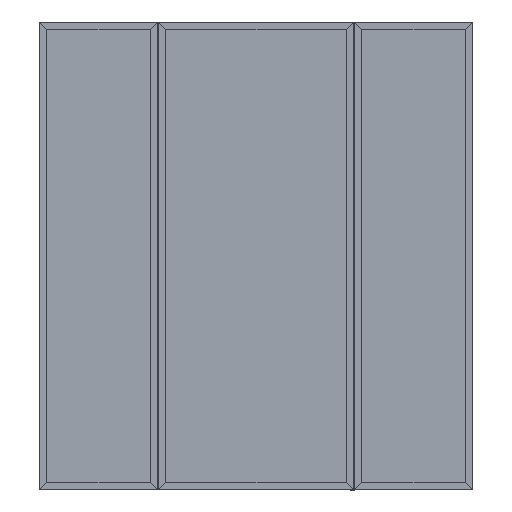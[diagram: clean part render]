
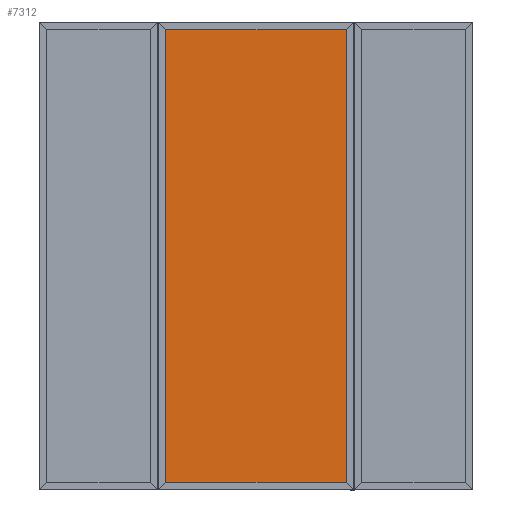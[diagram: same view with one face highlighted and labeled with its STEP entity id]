
A CAD part, top view. The second image highlights one B-rep face of the part: STEP entity #7312.
In plain terms, the highlighted planar face has unit normal (0, 0, 1).
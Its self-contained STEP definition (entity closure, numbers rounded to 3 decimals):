
#1139 = LINE ( 'NONE', #37213, #14874 ) ;
#1597 = DIRECTION ( 'NONE',  ( 0., 1., 0. ) ) ;
#3552 = EDGE_CURVE ( 'NONE', #18930, #36298, #36344, .T. ) ;
#7183 = ORIENTED_EDGE ( 'NONE', *, *, #3552, .T. ) ;
#7312 = ADVANCED_FACE ( 'NONE', ( #45246 ), #26921, .F. ) ;
#7360 = VECTOR ( 'NONE', #25122, 1000. ) ;
#8920 = CARTESIAN_POINT ( 'NONE',  ( -465.07, -1162.2, -13.25 ) ) ;
#10069 = ORIENTED_EDGE ( 'NONE', *, *, #29783, .F. ) ;
#12865 = ORIENTED_EDGE ( 'NONE', *, *, #38658, .T. ) ;
#13585 = CARTESIAN_POINT ( 'NONE',  ( 0., 0., -13.25 ) ) ;
#14432 = VERTEX_POINT ( 'NONE', #23241 ) ;
#14874 = VECTOR ( 'NONE', #1597, 1000. ) ;
#16277 = CARTESIAN_POINT ( 'NONE',  ( 465.07, -1162.2, -13.25 ) ) ;
#16427 = EDGE_CURVE ( 'NONE', #33248, #14432, #1139, .T. ) ;
#17570 = CARTESIAN_POINT ( 'NONE',  ( 465.07, 1162.2, -13.25 ) ) ;
#18482 = LINE ( 'NONE', #22221, #39928 ) ;
#18930 = VERTEX_POINT ( 'NONE', #16277 ) ;
#22221 = CARTESIAN_POINT ( 'NONE',  ( 0., -1162.2, -13.25 ) ) ;
#23241 = CARTESIAN_POINT ( 'NONE',  ( -465.07, 1162.2, -13.25 ) ) ;
#24350 = DIRECTION ( 'NONE',  ( 0., 0., -1. ) ) ;
#25122 = DIRECTION ( 'NONE',  ( -1., 0., 0. ) ) ;
#26921 = PLANE ( 'NONE',  #27749 ) ;
#27749 = AXIS2_PLACEMENT_3D ( 'NONE', #13585, #24350, #45004 ) ;
#29248 = DIRECTION ( 'NONE',  ( -1., 0., 0. ) ) ;
#29783 = EDGE_CURVE ( 'NONE', #18930, #33248, #18482, .T. ) ;
#30725 = ORIENTED_EDGE ( 'NONE', *, *, #16427, .F. ) ;
#32598 = DIRECTION ( 'NONE',  ( 0., 1., 0. ) ) ;
#33248 = VERTEX_POINT ( 'NONE', #8920 ) ;
#36298 = VERTEX_POINT ( 'NONE', #17570 ) ;
#36344 = LINE ( 'NONE', #39202, #36520 ) ;
#36520 = VECTOR ( 'NONE', #32598, 1000. ) ;
#37213 = CARTESIAN_POINT ( 'NONE',  ( -465.07, 0., -13.25 ) ) ;
#38658 = EDGE_CURVE ( 'NONE', #36298, #14432, #43426, .T. ) ;
#38922 = EDGE_LOOP ( 'NONE', ( #30725, #10069, #7183, #12865 ) ) ;
#39202 = CARTESIAN_POINT ( 'NONE',  ( 465.07, 0., -13.25 ) ) ;
#39928 = VECTOR ( 'NONE', #29248, 1000. ) ;
#43199 = CARTESIAN_POINT ( 'NONE',  ( 0., 1162.2, -13.25 ) ) ;
#43426 = LINE ( 'NONE', #43199, #7360 ) ;
#45004 = DIRECTION ( 'NONE',  ( -1., 0., 0. ) ) ;
#45246 = FACE_OUTER_BOUND ( 'NONE', #38922, .T. ) ;
